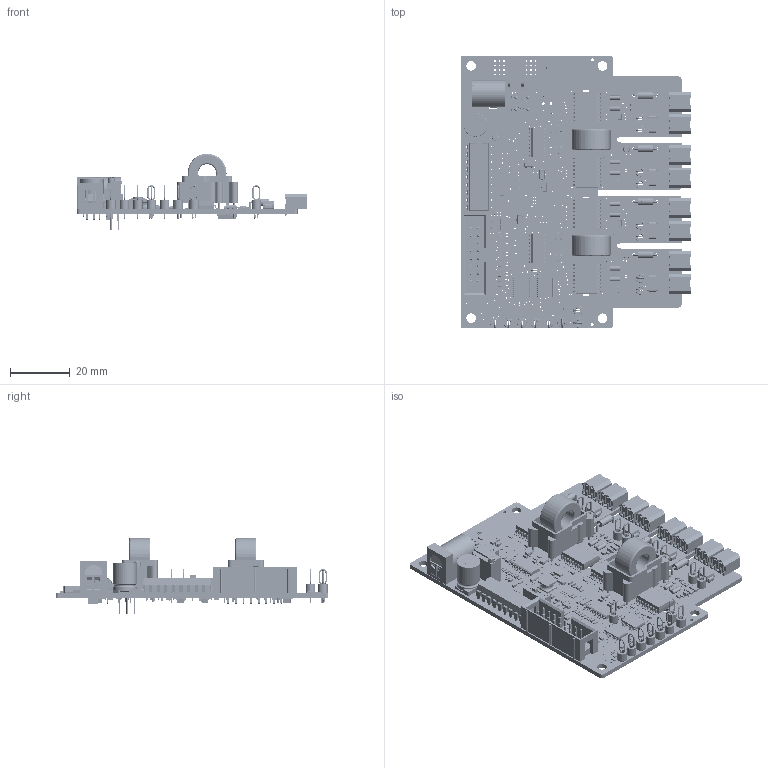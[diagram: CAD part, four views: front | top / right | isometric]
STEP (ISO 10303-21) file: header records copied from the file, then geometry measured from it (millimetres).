
FILE_DESCRIPTION(('for SolidWorks'),'2;1');
FILE_NAME('C:\Users\Taraz Tech1\Desktop\GDC-2A4S1.step', '2019-09-04T23:10:43',('Taraz Tech1'),(''), 'Open CASCADE STEP processor 6.6','DipTrace','Unknown');
FILE_SCHEMA(('AUTOMOTIVE_DESIGN { 1 0 10303 214 1 1 1 1 }'));
Length unit declared in the file: millimetre
Products named in the file (34): PCB_GDC-2A4S1; Board_GDC-2A4S1; CAP_1206; CAP_0603; CAP_8x10; LED_0603; DIO_SOD-123; DIO_SOD-323; SOT-490; SOT323; DIO_DO-214AA; DIO_DO-41; RES_0603; CONN_IDC_2x8_BLK; CONN_DC-Jack_RA_163-179PH-EX; CONN_TB_2x2.5; CONN_TB_Jack_2x2.5_1814841; IND_4.9x4.9x3.1; SW_PB_6x6x4.3; SOT23; RES_POT_67Y; RES_0204_MELF; DIP_SW1_418117270901; TP_MP-BLK; TP_MP-ORG; TP_MP-RED; TP_MP-GRY; TRANS_P0584NL; DIP-18; TSSOP-20; TO252-3; SOIC16_300; SOT89; SOIC16-150mil
Assembly tree (256 placements, depth 2):
  PCB_GDC-2A4S1
    Board_GDC-2A4S1
    CAP_1206  x18
    CAP_0603  x42
    CAP_8x10
    LED_0603  x15
    DIO_SOD-123  x4
    DIO_SOD-323  x5
    SOT-490  x6
    SOT323  x4
    DIO_DO-214AA  x4
    DIO_DO-41  x4
    RES_0603  x89
    CONN_IDC_2x8_BLK
    CONN_DC-Jack_RA_163-179PH-EX
    CONN_TB_2x2.5
    CONN_TB_Jack_2x2.5_1814841  x8
    IND_4.9x4.9x3.1
    SW_PB_6x6x4.3
    SOT23  x7
    RES_POT_67Y
    RES_0204_MELF  x8
    DIP_SW1_418117270901
    TP_MP-BLK
    TP_MP-ORG  x10
    TP_MP-RED  x2
    TP_MP-GRY  x4
    TRANS_P0584NL  x2
    DIP-18
    TSSOP-20  x2
    TO252-3
    SOIC16_300  x4
    SOT89  x4
    SOIC16-150mil  x2
Bounding box: 77.26 x 91.44 x 25.64 mm (x, y, z)
Volume: 14242.1 mm3; surface area: 34224.4 mm2
Topology: 116 solids, 711 shells, 21426 faces, 53954 edges, 34428 vertices
Faces by surface type: plane 12025, bspline 5581, cylinder 3088, sphere 480, torus 158, cone 82, revolution 10, extrusion 2
Full cylindrical faces by diameter (mm): 0.4 x312, 0.6 x24, 0.8 x5, 0.9 x32, 0.95 x8, 1 x34, 1.05 x2, 3.2 x4
Entity records: 166770 total; most frequent: CARTESIAN_POINT 35050, ORIENTED_EDGE 22126, DIRECTION 21433, EDGE_CURVE 11087, VECTOR 8101, LINE 8099, VERTEX_POINT 7134, AXIS2_PLACEMENT_3D 6661
